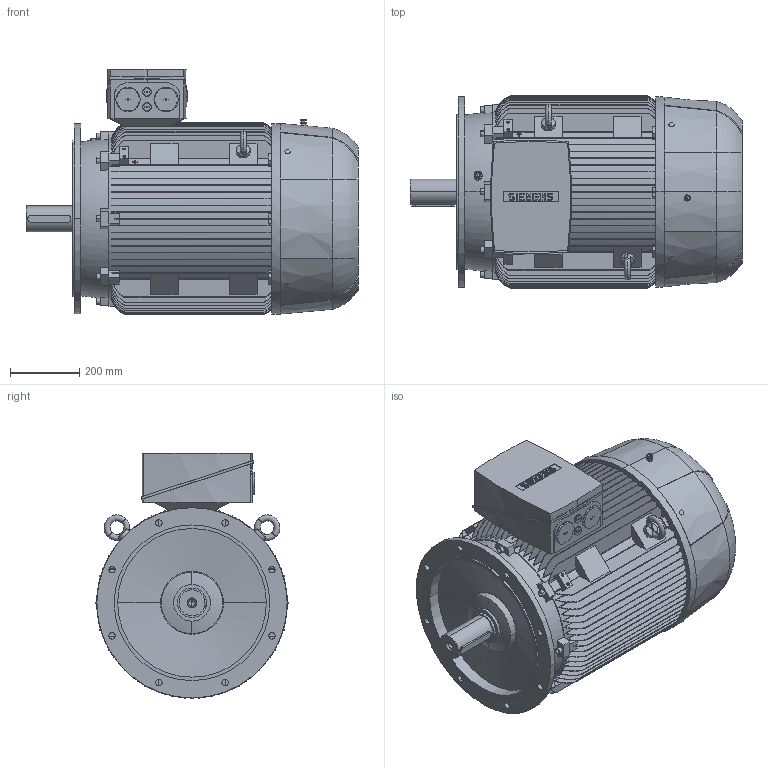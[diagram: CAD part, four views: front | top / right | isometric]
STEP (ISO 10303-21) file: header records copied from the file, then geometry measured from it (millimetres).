
FILE_DESCRIPTION(('STEP AP214'),'1');
FILE_NAME('cctmp_B4976970-009B-4DBE-8139-F087D5D26683_2020_7_1_13_34_42_203..stp','2020-07-01T11:34:43',('SIEMENS A&D'),('CADClick - www.CADClick.com'),'Spatial InterOp 3D',' ','unknown authorization');
FILE_SCHEMA(('AUTOMOTIVE_DESIGN'));
Length unit declared in the file: millimetre
Products named in the file (1): 1
Bounding box: 960 x 556 x 711 mm (x, y, z)
Volume: 162974119.7 mm3; surface area: 5065492.4 mm2
Topology: 4 solids, 4 shells, 1242 faces, 3432 edges, 2260 vertices
Faces by surface type: plane 747, cylinder 293, torus 174, cone 28
Entity records: 61829 total; most frequent: CARTESIAN_POINT 20756, ORIENTED_EDGE 6852, DIRECTION 5971, EDGE_CURVE 3426, VERTEX_POINT 2260, LINE 2073, VECTOR 2073, AXIS2_PLACEMENT_3D 1949
